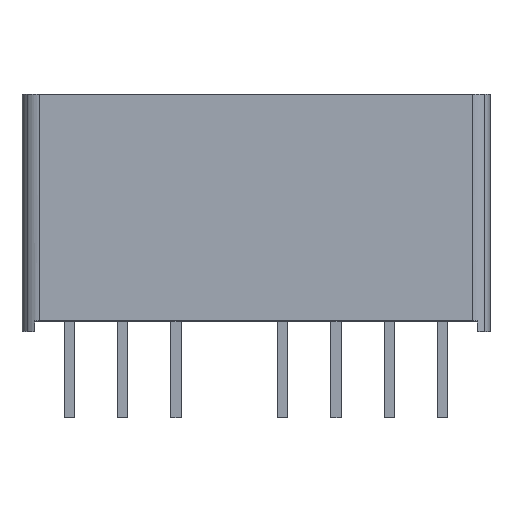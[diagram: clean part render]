
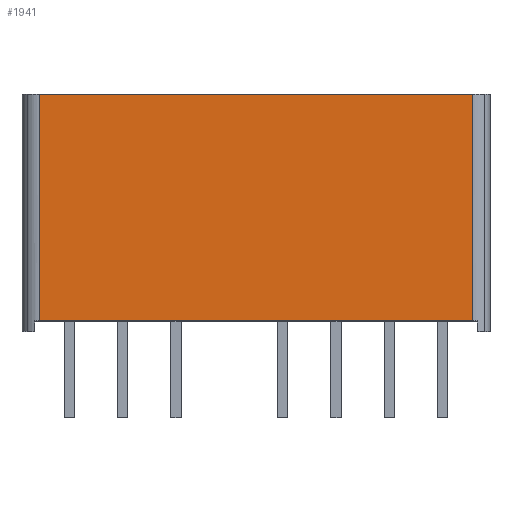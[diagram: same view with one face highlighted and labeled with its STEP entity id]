
A CAD part, top view. The second image highlights one B-rep face of the part: STEP entity #1941.
In plain terms, the highlighted planar face has unit normal (0, 0, 1).
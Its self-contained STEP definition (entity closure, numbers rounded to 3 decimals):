
#86 = VERTEX_POINT ( 'NONE', #1081 ) ;
#121 = CARTESIAN_POINT ( 'NONE',  ( 0., 5.226, 5. ) ) ;
#149 = CARTESIAN_POINT ( 'NONE',  ( 10.3, 0., 5. ) ) ;
#245 = DIRECTION ( 'NONE',  ( -1., 0., 0. ) ) ;
#349 = DIRECTION ( 'NONE',  ( 0., 1., 0. ) ) ;
#432 = EDGE_CURVE ( 'NONE', #853, #86, #490, .T. ) ;
#490 = LINE ( 'NONE', #718, #550 ) ;
#531 = LINE ( 'NONE', #1418, #1720 ) ;
#550 = VECTOR ( 'NONE', #245, 1000. ) ;
#584 = CARTESIAN_POINT ( 'NONE',  ( 0., 0., 5. ) ) ;
#718 = CARTESIAN_POINT ( 'NONE',  ( 0., 10.8, 5. ) ) ;
#721 = ORIENTED_EDGE ( 'NONE', *, *, #2148, .F. ) ;
#750 = CARTESIAN_POINT ( 'NONE',  ( -10.3, 0., 5. ) ) ;
#792 = VECTOR ( 'NONE', #1302, 1000. ) ;
#806 = DIRECTION ( 'NONE',  ( 1., 0., 0. ) ) ;
#852 = CARTESIAN_POINT ( 'NONE',  ( 10.3, 10.8, 5. ) ) ;
#853 = VERTEX_POINT ( 'NONE', #852 ) ;
#968 = AXIS2_PLACEMENT_3D ( 'NONE', #121, #1244, #806 ) ;
#976 = LINE ( 'NONE', #584, #1337 ) ;
#1064 = FACE_OUTER_BOUND ( 'NONE', #2286, .T. ) ;
#1081 = CARTESIAN_POINT ( 'NONE',  ( -10.3, 10.8, 5. ) ) ;
#1244 = DIRECTION ( 'NONE',  ( 0., 0., 1. ) ) ;
#1265 = PLANE ( 'NONE',  #968 ) ;
#1302 = DIRECTION ( 'NONE',  ( 0., -1., 0. ) ) ;
#1337 = VECTOR ( 'NONE', #2100, 1000. ) ;
#1418 = CARTESIAN_POINT ( 'NONE',  ( -10.3, 8.013, 5. ) ) ;
#1589 = ORIENTED_EDGE ( 'NONE', *, *, #2586, .T. ) ;
#1720 = VECTOR ( 'NONE', #349, 1000. ) ;
#1936 = ORIENTED_EDGE ( 'NONE', *, *, #432, .T. ) ;
#1941 = ADVANCED_FACE ( 'NONE', ( #1064 ), #1265, .T. ) ;
#2100 = DIRECTION ( 'NONE',  ( 1., 0., 0. ) ) ;
#2148 = EDGE_CURVE ( 'NONE', #853, #2309, #2674, .T. ) ;
#2286 = EDGE_LOOP ( 'NONE', ( #721, #1936, #2499, #1589 ) ) ;
#2309 = VERTEX_POINT ( 'NONE', #149 ) ;
#2469 = CARTESIAN_POINT ( 'NONE',  ( 10.3, 2.363, 5. ) ) ;
#2499 = ORIENTED_EDGE ( 'NONE', *, *, #2641, .F. ) ;
#2586 = EDGE_CURVE ( 'NONE', #2628, #2309, #976, .T. ) ;
#2628 = VERTEX_POINT ( 'NONE', #750 ) ;
#2641 = EDGE_CURVE ( 'NONE', #2628, #86, #531, .T. ) ;
#2674 = LINE ( 'NONE', #2469, #792 ) ;
